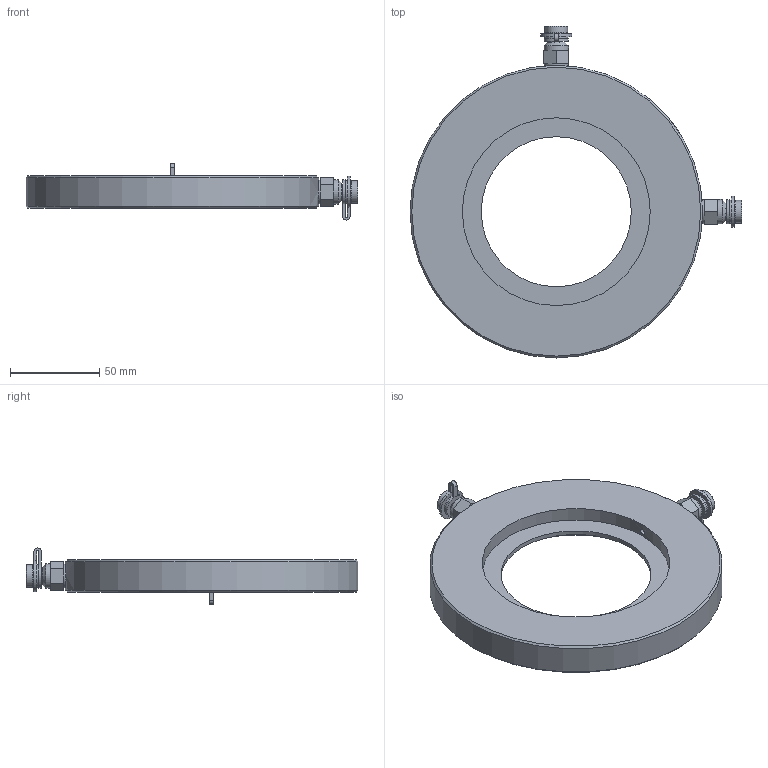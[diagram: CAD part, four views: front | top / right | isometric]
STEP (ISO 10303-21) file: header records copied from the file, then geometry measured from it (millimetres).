
FILE_DESCRIPTION((''),'2;1');
FILE_NAME('P:\Fastrack\53972_CRANE 3D\Workspace\DM900_DN100\DM900_DN100.stp','2010-12-23T10:35:50',('btaylor'),(''),'Autodesk Inventor 2008','Autodesk Inventor 2008','');
FILE_SCHEMA(('AUTOMOTIVE_DESIGN { 1 0 10303 214 1 1 1 1 }'));
Length unit declared in the file: millimetre
Products named in the file (1): DM900_DN100
Bounding box: 186.1 x 186.1 x 31.45 mm (x, y, z)
Volume: 237270.9 mm3; surface area: 49129 mm2
Topology: 1 solids, 1 shells, 103 faces, 231 edges, 149 vertices
Faces by surface type: plane 48, cylinder 29, bspline 18, cone 8
Full cylindrical faces by diameter (mm): 3.2 x2, 7.4 x2, 11 x2, 12.7 x2, 13.7 x2, 84.15 x1, 105.3 x2, 164 x1
Entity records: 7567 total; most frequent: CARTESIAN_POINT 5336, ORIENTED_EDGE 392, DIRECTION 390, EDGE_CURVE 196, EDGE_LOOP 152, AXIS2_PLACEMENT_3D 150, VERTEX_POINT 138, STYLED_ITEM 104
